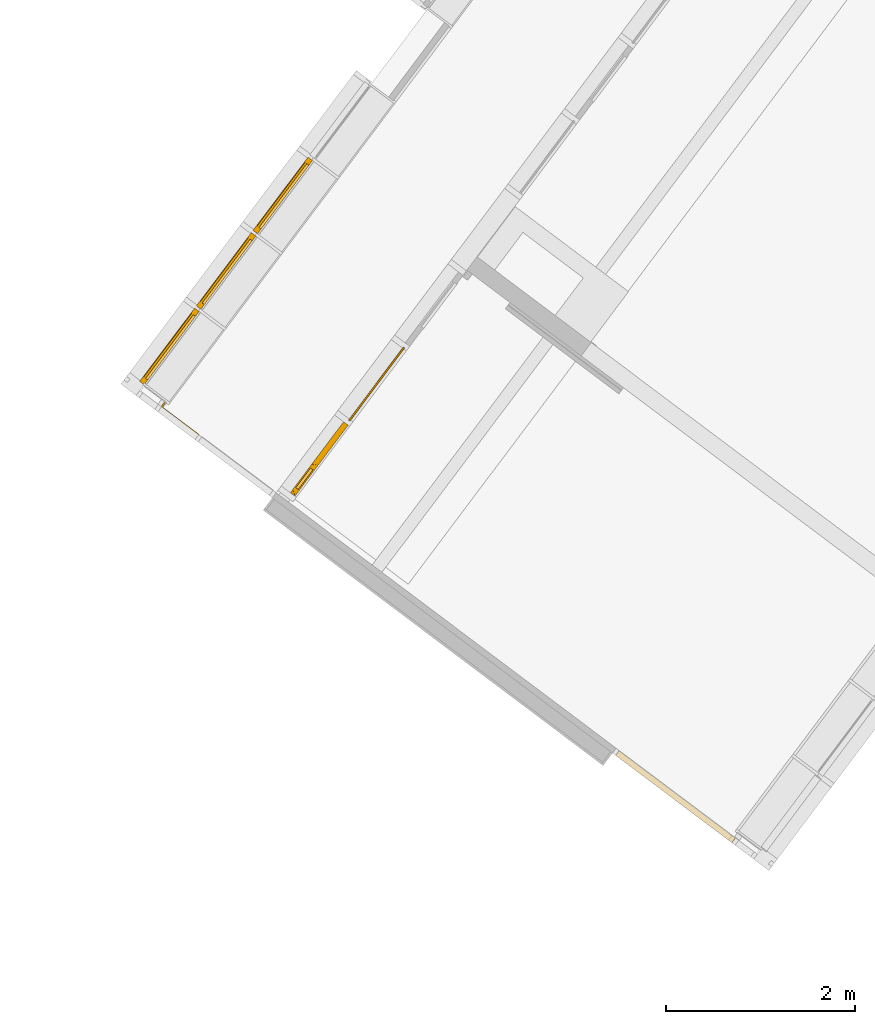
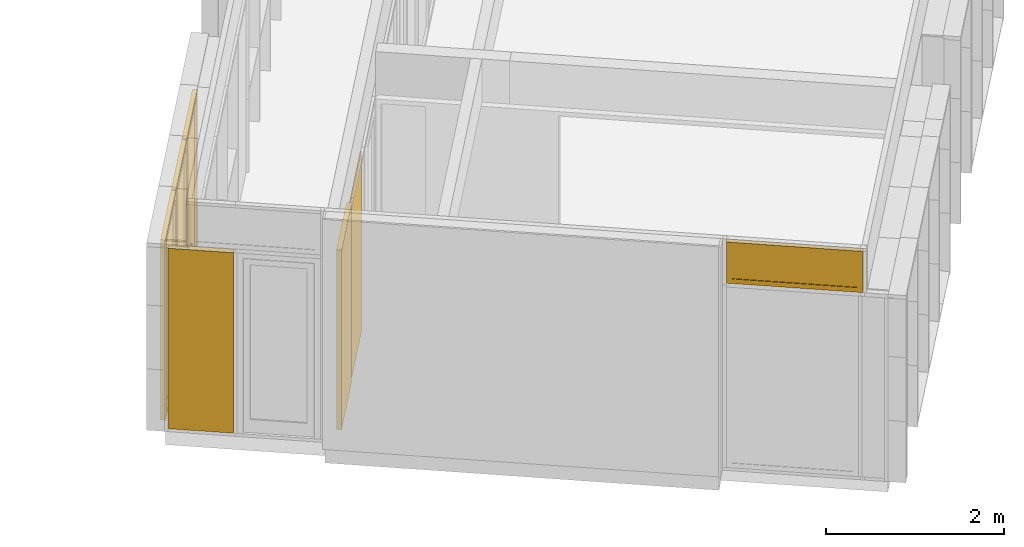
# One storey, part 174 of 243: 6 windows, 1 door, 4 elements without a shape of their own.
"""IFC2X3 building model written with IfcOpenShell, lengths in metres."""

import ifcopenshell
import ifcopenshell.guid

model = None  # the IFC model being written
_history = None  # IfcOwnerHistory: only IFC2X3 demands one
_inside = {}  # id of a spatial element -> (the spatial element, [elements in it])
_under = {}  # id of a project, library or spatial element -> (it, [spatial elements below it])
_declared = {}  # id of a project -> (the project, [libraries it declares])
_typed = {}  # id of a type object -> (the type object, [elements of that type])
_made_of = {}  # id of a material, layer set ... -> (it, [elements and type objects made of it])


def new_model(schema):
    """Start an empty IFC model of exactly this schema.

    Asked for "IFC4X3", IfcOpenShell would pick the latest addendum, in which some entities
    have other attributes; the version numbers below select the first issue.
    IFC2X3 requires an IfcOwnerHistory on every rooted entity: one is made here for all.
    """
    global model, _history
    if schema == "IFC4X3":
        model = ifcopenshell.file(schema_version=(4, 3, 0, 0))
    else:
        model = ifcopenshell.file(schema=schema)
    _inside.clear()
    _under.clear()
    _declared.clear()
    _typed.clear()
    _made_of.clear()
    _history = None
    if model.schema == "IFC2X3":
        org = make("IfcOrganization", Name="unknown")
        user = make(
            "IfcPersonAndOrganization",
            ThePerson=make("IfcPerson", FamilyName="unknown"),
            TheOrganization=org,
        )
        app = make(
            "IfcApplication",
            ApplicationDeveloper=org,
            Version="unknown",
            ApplicationFullName="unknown",
            ApplicationIdentifier="unknown",
        )
        _history = make(
            "IfcOwnerHistory",
            OwningUser=user,
            OwningApplication=app,
            ChangeAction="ADDED",
            CreationDate=0,
        )
    return model


def make(cls, **values):
    """One entity of the class cls with the attributes given. An attribute that is None is left unset."""
    return model.create_entity(
        cls, **{name: value for name, value in values.items() if value is not None}
    )


def entity(cls, *values):
    """Any entity or typed value of the class cls, its attributes in the order of the schema. None: left unset."""
    e = model.create_entity(cls)
    for i, value in enumerate(values):
        if value is not None:
            e[i] = value
    return e


def rooted(cls, **values):
    """An entity with a GlobalId (a new one), such as an element, a storey or a relation."""
    return make(cls, GlobalId=ifcopenshell.guid.new(), OwnerHistory=_history, **values)


def si_unit(unit_type, name, prefix=None):
    """IfcSIUnit, for example si_unit("LENGTHUNIT", "METRE", prefix="MILLI")."""
    return make("IfcSIUnit", UnitType=unit_type, Prefix=prefix, Name=name)


def converted_unit(unit_type, name, factor, base, dimensions=None, offset=None):
    """IfcConversionBasedUnit, such as the inch: factor (a typed value) times the base unit."""
    return make(
        "IfcConversionBasedUnit"
        if offset is None
        else "IfcConversionBasedUnitWithOffset",
        ConversionOffset=offset,
        Dimensions=None
        if dimensions is None
        else entity("IfcDimensionalExponents", *dimensions),
        UnitType=unit_type,
        Name=name,
        ConversionFactor=make(
            "IfcMeasureWithUnit", ValueComponent=factor, UnitComponent=base
        ),
    )


def derived_unit(unit_type, elements):
    """IfcDerivedUnit: a product of units, each with its exponent."""
    return make(
        "IfcDerivedUnit",
        Elements=[
            make("IfcDerivedUnitElement", Unit=unit, Exponent=power)
            for unit, power in elements
        ],
        UnitType=unit_type,
    )


def assignment(units):
    """IfcUnitAssignment: the units of a project."""
    return None if units is None else make("IfcUnitAssignment", Units=units)


def point(xyz):
    """IfcCartesianPoint."""
    return None if xyz is None else make("IfcCartesianPoint", Coordinates=xyz)


def direction(xyz):
    """IfcDirection."""
    return None if xyz is None else make("IfcDirection", DirectionRatios=xyz)


def frame(location, z_axis=None, x_axis=None):
    """IfcAxis2Placement3D, a coordinate frame: its origin and axes. An axis left out is left unset."""
    return make(
        "IfcAxis2Placement3D",
        Location=point(location),
        Axis=direction(z_axis),
        RefDirection=direction(x_axis),
    )


def frame_2d(location, x_axis=None):
    """IfcAxis2Placement2D, a coordinate frame in the plane: its origin and x axis."""
    return make(
        "IfcAxis2Placement2D", Location=point(location), RefDirection=direction(x_axis)
    )


def origin():
    """The frame at (0, 0, 0) with its axes left unset."""
    return frame((0.0, 0.0, 0.0))


def origin_2d_with_axis():
    """The frame at (0, 0) in the plane with the x axis (1, 0) written out."""
    return frame_2d((0.0, 0.0), x_axis=(1.0, 0.0))


def place(relative_to, where):
    """IfcLocalPlacement: puts the frame where relative to a parent placement (None: the world)."""
    return make(
        "IfcLocalPlacement", PlacementRelTo=relative_to, RelativePlacement=where
    )


def context(
    kind, dimensions, precision=None, world=None, true_north=None, identifier=None
):
    """IfcGeometricRepresentationContext, for example the 3D "Model" context."""
    return make(
        "IfcGeometricRepresentationContext",
        ContextIdentifier=identifier,
        ContextType=kind,
        CoordinateSpaceDimension=dimensions,
        Precision=precision,
        WorldCoordinateSystem=world,
        TrueNorth=true_north,
    )


def subcontext(parent, identifier, kind, view, scale=None):
    """IfcGeometricRepresentationSubContext, for example "Body" below "Model"."""
    return make(
        "IfcGeometricRepresentationSubContext",
        ContextIdentifier=identifier,
        ContextType=kind,
        ParentContext=parent,
        TargetScale=scale,
        TargetView=view,
    )


def project(units=None, contexts=None):
    """IfcProject with its units and contexts."""
    return rooted(
        "IfcProject",
        Name="project",
        RepresentationContexts=contexts,
        UnitsInContext=assignment(units),
    )


def spatial(cls, under=None, at=None, **own):
    """A site, building, storey or space (cls), placed at a placement, below another one or the project."""
    s = rooted(cls, ObjectPlacement=at, **own)
    if under is not None:
        _under.setdefault(under.id(), (under, []))[1].append(s)
    return s


def polyline(points):
    """IfcPolyline through the points."""
    return make("IfcPolyline", Points=[point(p) for p in points])


def profile(cls, at=None, kind="AREA", **sizes):
    """A parametric profile (cls). Its sizes go by their IFC names, for example OverallWidth=200.0."""
    return make(cls, ProfileType=kind, Position=at, **sizes)


def rectangle(**sizes):
    """IfcRectangleProfileDef."""
    return profile("IfcRectangleProfileDef", **sizes)


def outline(outer, holes=None, kind="AREA"):
    """IfcArbitraryClosedProfileDef: a profile drawn as a closed curve; with holes, ...WithVoids."""
    if holes is None:
        return make("IfcArbitraryClosedProfileDef", ProfileType=kind, OuterCurve=outer)
    return make(
        "IfcArbitraryProfileDefWithVoids",
        ProfileType=kind,
        OuterCurve=outer,
        InnerCurves=holes,
    )


def extrude(swept, where, along, depth):
    """IfcExtrudedAreaSolid: the profile swept, set in the frame where, extruded along a direction by depth."""
    return make(
        "IfcExtrudedAreaSolid",
        SweptArea=swept,
        Position=where,
        ExtrudedDirection=direction(along),
        Depth=depth,
    )


def faces_of(points, faces, orient=None, outer=None):
    """IfcFace entities. A face is a list of loops; a loop is a list of indices into points, from 0.

    orient and outer hold one flag for each loop. By default every Orientation is true, the
    first loop of a face is its IfcFaceOuterBound and the others are IfcFaceBound.
    """
    made = []
    for i, loops in enumerate(faces):
        bounds = []
        for j, loop in enumerate(loops):
            is_outer = j == 0 if outer is None else outer[i][j]
            bounds.append(
                make(
                    "IfcFaceOuterBound" if is_outer else "IfcFaceBound",
                    Bound=make("IfcPolyLoop", Polygon=[points[k] for k in loop]),
                    Orientation=True if orient is None else orient[i][j],
                )
            )
        made.append(make("IfcFace", Bounds=bounds))
    return made


def faceted_brep(points, faces, orient=None, outer=None, voids=None):
    """IfcFacetedBrep: a solid bounded by flat faces; with voids (closed shells), ...WithVoids."""
    shared = [point(p) for p in points]
    hull = make("IfcClosedShell", CfsFaces=faces_of(shared, faces, orient, outer))
    if voids is None:
        return make("IfcFacetedBrep", Outer=hull)
    return make(
        "IfcFacetedBrepWithVoids",
        Outer=hull,
        Voids=[
            make(cls, CfsFaces=faces_of(shared, fs, o, b)) for cls, fs, o, b in voids
        ],
    )


def shape(context_of_items, identifier, shape_type, items):
    """IfcShapeRepresentation: the items that make up one representation, for example the "Body"."""
    return make(
        "IfcShapeRepresentation",
        ContextOfItems=context_of_items,
        RepresentationIdentifier=identifier,
        RepresentationType=shape_type,
        Items=items,
    )


def source(mapping_origin, context_of_items, identifier, shape_type, items):
    """IfcRepresentationMap: a shape defined once, which mapped items show again and again."""
    return make(
        "IfcRepresentationMap",
        MappingOrigin=mapping_origin,
        MappedRepresentation=shape(context_of_items, identifier, shape_type, items),
    )


def transform(
    local_origin,
    x_axis=None,
    y_axis=None,
    z_axis=None,
    scale=None,
    scale2=None,
    scale3=None,
    uniform=True,
):
    """IfcCartesianTransformationOperator3D, or its non-uniform kind. x_axis, y_axis, z_axis: its Axis1, 2, 3."""
    if uniform:
        return make(
            "IfcCartesianTransformationOperator3D",
            Axis1=direction(x_axis),
            Axis2=direction(y_axis),
            LocalOrigin=point(local_origin),
            Scale=scale,
            Axis3=direction(z_axis),
        )
    return make(
        "IfcCartesianTransformationOperator3DnonUniform",
        Axis1=direction(x_axis),
        Axis2=direction(y_axis),
        LocalOrigin=point(local_origin),
        Scale=scale,
        Axis3=direction(z_axis),
        Scale2=scale2,
        Scale3=scale3,
    )


def mapped(mapping_source, mapping_target):
    """IfcMappedItem: shows the shape of a source again, moved by a transform."""
    return make(
        "IfcMappedItem", MappingSource=mapping_source, MappingTarget=mapping_target
    )


def material(Name=None, Category=None):
    """IfcMaterial."""
    return make("IfcMaterial", Name=Name, Category=Category)


def material_list(materials):
    """IfcMaterialList."""
    return make("IfcMaterialList", Materials=materials)


def made_of(thing, what):
    """Note that an element or type object is made of a material, layer set ...; save() writes the relation."""
    if what is not None:
        _made_of.setdefault(what.id(), (what, []))[1].append(thing)
    return thing


def type_object(cls, material=None, **own):
    """A type object (cls), such as IfcWallType, which elements share."""
    return made_of(rooted(cls, **own), material)


def type_shapes(of_type, sources):
    """Give a type object the sources (RepresentationMaps) that its elements show as mapped items."""
    of_type.RepresentationMaps = sources


def element(
    cls,
    number,
    at=None,
    inside=None,
    cuts=None,
    type_object=None,
    material=None,
    context=None,
    identifier="Body",
    shape_type=None,
    held_by="IfcProductDefinitionShape",
    body=None,
    shapes=None,
    **own,
):
    """One element of the class cls, such as IfcWall. Its Tag is "e" and its number.

    at: its placement. inside: the storey or other place that contains it. cuts: it is an
    opening in that element (IfcRelVoidsElement). A single representation is given by context,
    identifier, shape_type and body (its items); several are given by shapes. held_by: the class
    of the entity that holds the representations. save() writes the other relations.
    """
    e = rooted(cls, Tag="e%d" % number, ObjectPlacement=at, **own)
    if body is not None:
        shapes = [shape(context, identifier, shape_type, body)]
    if shapes is not None:
        e.Representation = make(held_by, Representations=shapes)
    if inside is not None:
        _inside.setdefault(inside.id(), (inside, []))[1].append(e)
    if cuts is not None:
        rooted(
            "IfcRelVoidsElement", RelatingBuildingElement=cuts, RelatedOpeningElement=e
        )
    if type_object is not None:
        _typed.setdefault(type_object.id(), (type_object, []))[1].append(e)
    return made_of(e, material)


def aggregate(whole, parts):
    """IfcRelAggregates: a whole, such as a stair, and the parts it consists of."""
    return rooted("IfcRelAggregates", RelatingObject=whole, RelatedObjects=parts)


def save(model, path):
    """Write the relations noted so far, then the file.

    IfcRelAggregates (storeys below a building ...), IfcRelContainedInSpatialStructure (elements
    in a storey), IfcRelDefinesByType, IfcRelAssociatesMaterial and IfcRelDeclares: one each for
    every whole, place, type object, material and project.
    """
    for whole, parts in _under.values():
        aggregate(whole, parts)
    for where, things in _inside.values():
        rooted(
            "IfcRelContainedInSpatialStructure",
            RelatedElements=things,
            RelatingStructure=where,
        )
    for kind, things in _typed.values():
        rooted("IfcRelDefinesByType", RelatedObjects=things, RelatingType=kind)
    for what, things in _made_of.values():
        rooted("IfcRelAssociatesMaterial", RelatedObjects=things, RelatingMaterial=what)
    for by, libraries in _declared.values():
        rooted("IfcRelDeclares", RelatingContext=by, RelatedDefinitions=libraries)
    model.write(path)


model = new_model("IFC2X3")

# Units and contexts
model_context = context("Model", 3, precision=1e-05, world=origin(), true_north=direction((6.123031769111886e-17, 1.0)))
body_context = subcontext(model_context, "Body", "Model", "MODEL_VIEW")
ifc_project = project(units=[si_unit("LENGTHUNIT", "METRE"), si_unit("AREAUNIT", "SQUARE_METRE"), si_unit("VOLUMEUNIT", "CUBIC_METRE"), converted_unit("PLANEANGLEUNIT", "DEGREE", entity("IfcRatioMeasure", 0.017453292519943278), si_unit("PLANEANGLEUNIT", "RADIAN"), dimensions=[0, 0, 0, 0, 0, 0, 0]), si_unit("MASSUNIT", "GRAM", prefix="KILO"), derived_unit("MASSDENSITYUNIT", [(si_unit("MASSUNIT", "GRAM", prefix="KILO"), 1), (si_unit("LENGTHUNIT", "METRE"), -3)]), derived_unit("IONCONCENTRATIONUNIT", [(si_unit("MASSUNIT", "GRAM", prefix="KILO"), 1), (si_unit("LENGTHUNIT", "METRE"), -3)]), derived_unit("MOMENTOFINERTIAUNIT", [(si_unit("LENGTHUNIT", "METRE"), 4)]), si_unit("TIMEUNIT", "SECOND"), si_unit("FREQUENCYUNIT", "HERTZ"), si_unit("THERMODYNAMICTEMPERATUREUNIT", "DEGREE_CELSIUS"), derived_unit("THERMALTRANSMITTANCEUNIT", [(si_unit("MASSUNIT", "GRAM", prefix="KILO"), 1), (si_unit("THERMODYNAMICTEMPERATUREUNIT", "KELVIN"), -1), (si_unit("TIMEUNIT", "SECOND"), -3)]), derived_unit("THERMALCONDUCTANCEUNIT", [(si_unit("MASSUNIT", "GRAM", prefix="KILO"), 1), (si_unit("THERMODYNAMICTEMPERATUREUNIT", "KELVIN"), -1), (si_unit("TIMEUNIT", "SECOND"), -3), (si_unit("LENGTHUNIT", "METRE"), 1)]), derived_unit("VOLUMETRICFLOWRATEUNIT", [(si_unit("LENGTHUNIT", "METRE"), 3), (si_unit("TIMEUNIT", "SECOND"), -1)]), derived_unit("MASSFLOWRATEUNIT", [(si_unit("MASSUNIT", "GRAM", prefix="KILO"), 1), (si_unit("TIMEUNIT", "SECOND"), -1)]), derived_unit("ROTATIONALFREQUENCYUNIT", [(si_unit("TIMEUNIT", "SECOND"), -1)]), si_unit("ELECTRICCURRENTUNIT", "AMPERE"), si_unit("ELECTRICVOLTAGEUNIT", "VOLT"), si_unit("POWERUNIT", "WATT"), si_unit("FORCEUNIT", "NEWTON", prefix="KILO"), si_unit("ILLUMINANCEUNIT", "LUX"), si_unit("LUMINOUSFLUXUNIT", "LUMEN"), si_unit("LUMINOUSINTENSITYUNIT", "CANDELA"), derived_unit("USERDEFINED", [(si_unit("MASSUNIT", "GRAM", prefix="KILO"), -1), (si_unit("LENGTHUNIT", "METRE"), -2), (si_unit("TIMEUNIT", "SECOND"), 3), (si_unit("LUMINOUSFLUXUNIT", "LUMEN"), 1)]), derived_unit("USERDEFINED", [(si_unit("MASSUNIT", "GRAM", prefix="KILO"), 1), (si_unit("TIMEUNIT", "SECOND"), -3), (si_unit("LENGTHUNIT", "METRE"), 3), (si_unit("ELECTRICCURRENTUNIT", "AMPERE"), -2)]), derived_unit("SOUNDPOWERUNIT", [(si_unit("MASSUNIT", "GRAM", prefix="KILO"), 1), (si_unit("TIMEUNIT", "SECOND"), -3), (si_unit("LENGTHUNIT", "METRE"), 2)]), derived_unit("SOUNDPRESSUREUNIT", [(si_unit("MASSUNIT", "GRAM", prefix="KILO"), 1), (si_unit("LENGTHUNIT", "METRE"), -1), (si_unit("TIMEUNIT", "SECOND"), -2)]), derived_unit("LINEARVELOCITYUNIT", [(si_unit("LENGTHUNIT", "METRE"), 1), (si_unit("TIMEUNIT", "SECOND"), -1)]), si_unit("PRESSUREUNIT", "PASCAL"), derived_unit("USERDEFINED", [(si_unit("MASSUNIT", "GRAM", prefix="KILO"), 1), (si_unit("LENGTHUNIT", "METRE"), -2), (si_unit("TIMEUNIT", "SECOND"), -2)]), derived_unit("LINEARFORCEUNIT", [(si_unit("MASSUNIT", "GRAM", prefix="KILO"), 1), (si_unit("TIMEUNIT", "SECOND"), -2)]), derived_unit("PLANARFORCEUNIT", [(si_unit("MASSUNIT", "GRAM", prefix="KILO"), 1), (si_unit("LENGTHUNIT", "METRE"), -1), (si_unit("TIMEUNIT", "SECOND"), -2)]), derived_unit("SPECIFICHEATCAPACITYUNIT", [(si_unit("THERMODYNAMICTEMPERATUREUNIT", "KELVIN"), -1), (si_unit("LENGTHUNIT", "METRE"), 2), (si_unit("TIMEUNIT", "SECOND"), -2)]), derived_unit("HEATINGVALUEUNIT", [(si_unit("LENGTHUNIT", "METRE"), 2), (si_unit("TIMEUNIT", "SECOND"), -2)]), derived_unit("VAPORPERMEABILITYUNIT", [(si_unit("LENGTHUNIT", "METRE"), -1), (si_unit("TIMEUNIT", "SECOND"), 1)]), derived_unit("DYNAMICVISCOSITYUNIT", [(si_unit("MASSUNIT", "GRAM", prefix="KILO"), 1), (si_unit("TIMEUNIT", "SECOND"), -1), (si_unit("LENGTHUNIT", "METRE"), -1)]), derived_unit("THERMALEXPANSIONCOEFFICIENTUNIT", [(si_unit("THERMODYNAMICTEMPERATUREUNIT", "KELVIN"), -1)]), derived_unit("MODULUSOFELASTICITYUNIT", [(si_unit("MASSUNIT", "GRAM", prefix="KILO"), 1), (si_unit("LENGTHUNIT", "METRE"), -1), (si_unit("TIMEUNIT", "SECOND"), -2)]), derived_unit("ISOTHERMALMOISTURECAPACITYUNIT", [(si_unit("LENGTHUNIT", "METRE"), 3), (si_unit("MASSUNIT", "GRAM", prefix="KILO"), -1)]), derived_unit("MOISTUREDIFFUSIVITYUNIT", [(si_unit("TIMEUNIT", "SECOND"), -1), (si_unit("LENGTHUNIT", "METRE"), 2)])], contexts=[model_context])

# Site, building, storey
site_placement = place(None, frame((0.0, 0.0, 235.0), z_axis=(0.0, 0.0, 1.0), x_axis=(-0.7996477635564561, 0.6004693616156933, 0.0)))
site = spatial("IfcSite", under=ifc_project, at=site_placement, Name="Default", CompositionType="ELEMENT")
building_placement = place(site_placement, origin())
building = spatial("IfcBuilding", under=site, at=building_placement, CompositionType="ELEMENT")
storey_placement = place(building_placement, origin())
storey = spatial("IfcBuildingStorey", under=building, at=storey_placement, Name="P0- Escola", CompositionType="ELEMENT", Elevation=0.0)

# Curtain wall, windows
curtain_wall_type_1 = type_object("IfcCurtainWallType", Name="Muro cortina:MC- INT- a1", PredefinedType="NOTDEFINED")
curtain_wall_1_placement = place(storey_placement, origin())
curtain_wall_1 = element("IfcCurtainWall", 1, at=curtain_wall_1_placement, inside=storey, type_object=curtain_wall_type_1, Name="Muro cortina:MC- INT- a1", ObjectType="Muro cortina:MC- INT- a1")
ifc_material_1 = material(Name="_Fusta massisa- T1-  REV- PAV")
window_style_1 = type_object("IfcWindowStyle", Name="MC- Fusta- Finestra ventilacio interior:MC- Fusta- Finestra ventilacio interior", ConstructionType="NOTDEFINED", OperationType="NOTDEFINED", ParameterTakesPrecedence=False, Sizeable=False, material=ifc_material_1)
shared_shape_1 = source(origin(), body_context, "Body", "Brep", [
    faceted_brep([(-0.39299910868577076, 0.025000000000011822, 2.382999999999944), (-0.3929991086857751, 0.025000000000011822, 1.0449999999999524), (-0.13199910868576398, 0.0250000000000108, 1.0449999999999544), (-0.13199910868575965, 0.02500000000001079, 2.382999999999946), (-0.13199910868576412, -0.004999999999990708, 1.0449999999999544), (-0.1319991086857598, -0.004999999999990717, 2.382999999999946), (-0.3929991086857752, -0.004999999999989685, 1.0449999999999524), (-0.3929991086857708, -0.004999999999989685, 2.382999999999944), (-0.08699910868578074, 0.04000000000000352, 2.427999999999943), (-0.08699910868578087, 0.01000000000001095, 2.428000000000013), (-0.08699910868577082, 0.010000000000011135, 1.0), (-0.08699910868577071, 0.04000000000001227, 1.0), (-0.43799910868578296, 0.010000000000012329, 1.0), (-0.43799910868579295, 0.010000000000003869, 2.427999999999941), (-0.4379991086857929, 0.0400000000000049, 2.427999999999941), (-0.4379991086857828, 0.04000000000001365, 1.0), (-0.07199910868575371, 0.009999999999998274, 0.9850000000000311), (-0.45299910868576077, 0.009999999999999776, 0.9850000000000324), (-0.45299910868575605, 0.010000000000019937, 2.4430000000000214), (-0.07199910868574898, 0.010000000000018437, 2.44300000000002), (-0.07199910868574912, -0.019999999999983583, 2.443000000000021), (-0.45299910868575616, -0.019999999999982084, 2.443000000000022), (-0.45299910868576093, -0.02000000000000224, 0.985000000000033), (-0.07199910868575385, -0.020000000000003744, 0.9850000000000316)], [[[0, 1, 2, 3]], [[3, 2, 4, 5]], [[5, 4, 6, 7]], [[1, 0, 7, 6]], [[8, 9, 10, 11]], [[12, 13, 14, 15]], [[13, 9, 8, 14]], [[8, 11, 15, 14]], [[0, 3, 5, 7]], [[2, 1, 6, 4]], [[11, 10, 12, 15]], [[9, 13, 12, 10], [16, 17, 18, 19]], [[20, 21, 22, 23]], [[20, 19, 18, 21]], [[16, 19, 20, 23]], [[18, 17, 22, 21]], [[16, 23, 22, 17]]], outer=[[True], [True], [True], [True], [True], [True], [True], [True], [True], [True], [True], [False, True], [True], [True], [True], [True], [True]]),
    faceted_brep([(0.4649991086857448, -0.019999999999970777, 2.4549999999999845), (-0.4649991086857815, -0.019999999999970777, 2.4549999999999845), (-0.46499910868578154, -0.020000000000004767, 0.004999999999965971), (0.46499910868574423, -0.020000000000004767, 0.004999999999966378), (-0.4549991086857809, -0.019999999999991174, 0.9850000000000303), (-0.4549991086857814, -0.01999999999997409, 2.444999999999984), (-0.06999910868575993, -0.019999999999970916, 2.444999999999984), (-0.06999910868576, -0.019999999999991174, 0.9850000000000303), (-0.46499910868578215, -0.01599999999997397, 2.454999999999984), (-0.46499910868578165, -0.01600000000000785, 0.004999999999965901), (0.4649991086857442, -0.01600000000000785, 0.004999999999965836), (0.4649991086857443, -0.01599999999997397, 2.454999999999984), (-0.4699991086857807, -0.015999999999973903, 2.459999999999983), (-0.4699991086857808, -0.016000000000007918, 0.0), (0.4699991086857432, -0.016000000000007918, 0.0), (0.46999910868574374, -0.015999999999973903, 2.459999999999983), (0.4649991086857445, 0.03600000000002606, 2.454999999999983), (-0.4649991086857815, 0.03600000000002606, 2.454999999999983), (-0.46499910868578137, 0.03599999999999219, 0.004999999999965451), (0.46499910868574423, 0.03599999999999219, 0.004999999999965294), (0.4699991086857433, 0.036000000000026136, 2.459999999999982), (0.4699991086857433, 0.03599999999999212, 0.0), (-0.4699991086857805, 0.03599999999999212, 0.0), (-0.46999910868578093, 0.036000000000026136, 2.4599999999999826), (-0.46499910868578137, 0.03999999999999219, 0.004999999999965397), (0.4649991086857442, 0.03999999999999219, 0.004999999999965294), (-0.4649991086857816, 0.040000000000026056, 2.4550000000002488), (0.464999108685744, 0.040000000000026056, 2.4549999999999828), (-0.08499910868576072, 0.04000000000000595, 1.0), (-0.08499910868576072, 0.04000000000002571, 2.4299999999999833), (-0.4399991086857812, 0.040000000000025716, 2.4299999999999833), (-0.43999910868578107, 0.04000000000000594, 1.0), (-0.43999910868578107, 0.01000000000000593, 1.0), (-0.43999910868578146, 0.010000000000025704, 2.4299999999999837), (-0.08499910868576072, 0.010000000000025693, 2.4299999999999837), (-0.08499910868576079, 0.010000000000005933, 1.0), (-0.4549991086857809, 0.010000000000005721, 0.9850000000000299), (-0.08499910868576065, 0.010000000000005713, 0.9850000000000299), (-0.06999910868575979, 0.010000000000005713, 0.9850000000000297), (-0.06999910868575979, 0.0100000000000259, 2.4449999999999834), (-0.08499910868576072, 0.0100000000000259, 2.4449999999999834), (-0.4549991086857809, 0.010000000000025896, 2.4449999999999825)], [[[0, 1, 2, 3], [4, 5, 6, 7]], [[8, 9, 2, 1]], [[3, 2, 9, 10]], [[10, 9, 8, 11], [12, 13, 14, 15]], [[16, 17, 18, 19], [20, 21, 22, 23]], [[19, 18, 24, 25]], [[25, 24, 26, 27], [28, 29, 30, 31]], [[32, 33, 34, 35], [36, 37, 38, 39, 40, 41]], [[28, 31, 32, 35]], [[35, 34, 29, 28]], [[33, 32, 31, 30]], [[5, 4, 36, 41]], [[7, 6, 39, 38]], [[38, 37, 36, 4, 7]], [[0, 3, 10, 11]], [[16, 19, 25, 27]], [[15, 14, 21, 20]], [[14, 13, 22, 21]], [[23, 22, 13, 12]], [[1, 0, 11, 8]], [[12, 15, 20, 23]], [[41, 40, 39, 6, 5]], [[30, 29, 34, 33]], [[17, 16, 27, 26]], [[26, 24, 18, 17]]], outer=[[True, False], [True], [True], [False, True], [False, True], [True], [True, False], [False, True], [True], [True], [True], [True], [True], [True], [True], [True], [True], [True], [True], [True], [True], [True], [True], [True], [True]]),
])
type_shapes(window_style_1, [shared_shape_1])
window_1_placement = place(curtain_wall_1_placement, frame((60.020147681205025, -20.91519086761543, 0.059999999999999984), z_axis=(0.0, 0.0, 1.0), x_axis=(0.0, -1.0, 0.0)))
window_1 = element("IfcWindow", 2, at=window_1_placement, type_object=window_style_1, material=ifc_material_1, Name="MC- Fusta- Finestra ventilacio interior:MC- Fusta- Finestra ventilacio interior", ObjectType="MC- Fusta- Finestra ventilacio interior:MC- Fusta- Finestra ventilacio interior", OverallHeight=2.4600000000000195, OverallWidth=0.9399982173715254, context=body_context, shape_type="MappedRepresentation", body=[
    mapped(shared_shape_1, transform((0.0, 0.0, 0.0), scale=1.0)),
])
ifc_material_2 = material(Name="_Vidre")
window_style_2 = type_object("IfcWindowStyle", Name="MC- Fusta- vidre fix:MC- Fusta- vidre fix", ConstructionType="NOTDEFINED", OperationType="NOTDEFINED", ParameterTakesPrecedence=False, Sizeable=False, material=ifc_material_2)
shared_shape_2 = source(origin(), body_context, "Body", "SweptSolid", [
    extrude(rectangle(XDim=0.9699999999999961, YDim=0.015999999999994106, at=origin_2d_with_axis()), frame((0.0, 0.0, 0.0), z_axis=(0.0, 0.0, 1.0), x_axis=(-1.0, 0.0, 0.0)), (0.0, 0.0, 1.0), 2.475),
])
type_shapes(window_style_2, [shared_shape_2])
window_2_placement = place(curtain_wall_1_placement, frame((60.020147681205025, -21.915189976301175, 0.045000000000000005), z_axis=(0.0, 0.0, 1.0), x_axis=(0.0, -1.0, 0.0)))
window_2 = element("IfcWindow", 3, at=window_2_placement, type_object=window_style_2, material=ifc_material_2, Name="MC- Fusta- vidre fix:MC- Fusta- vidre fix", ObjectType="MC- Fusta- vidre fix:MC- Fusta- vidre fix", OverallHeight=2.475, OverallWidth=0.9699999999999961, context=body_context, shape_type="MappedRepresentation", body=[
    mapped(shared_shape_2, transform((0.0, 0.0, 0.0), scale=1.0)),
])
aggregate(curtain_wall_1, [window_1, window_2])

# Curtain wall, door
curtain_wall_type_2 = type_object("IfcCurtainWallType", Name="Muro cortina:MC- EXT- AL1- Fa porxo", PredefinedType="NOTDEFINED")
curtain_wall_2_placement = place(storey_placement, origin())
curtain_wall_2 = element("IfcCurtainWall", 4, at=curtain_wall_2_placement, inside=storey, type_object=curtain_wall_type_2, Name="Muro cortina:MC- EXT- AL1- Fa porxo", ObjectType="Muro cortina:MC- EXT- AL1- Fa porxo")
ifc_material_3 = material(Name="_Fusta massisa- T1")
ifc_material_4 = material(Name="_Aillament")
ifc_material_5 = material(Name="_Alumini- T1- Perfil")
ifc_material_list_1 = material_list([ifc_material_3, ifc_material_4, ifc_material_5])
door_style = type_object("IfcDoorStyle", Name="MC- Alu- panell especific:MC- Alu- panell especific", ConstructionType="NOTDEFINED", OperationType="NOTDEFINED", ParameterTakesPrecedence=False, Sizeable=False, material=ifc_material_list_1)
shared_shape_3 = source(origin(), body_context, "Body", "SweptSolid", [
    extrude(outline(polyline([(-0.3273333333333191, -0.009999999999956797), (-0.3273333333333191, -0.030000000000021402), (0.17116666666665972, -0.030000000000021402), (0.17116666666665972, 0.03999999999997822), (0.15616666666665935, 0.03999999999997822), (0.15616666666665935, -0.009999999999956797), (-0.3273333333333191, -0.009999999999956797)])), frame((-0.04191666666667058, -0.08000000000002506, 0.0), z_axis=(0.0, 0.0, -1.0), x_axis=(1.0, 0.0, 0.0)), (0.0, 0.0, -1.0), 2.4712499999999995),
    extrude(rectangle(XDim=0.04400000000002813, YDim=0.7384999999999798, at=origin_2d_with_axis()), frame((0.0, -0.027999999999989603, 0.0), z_axis=(0.0, 0.0, 1.0), x_axis=(0.0, 1.0, 0.0)), (0.0, 0.0, 1.0), 2.4712499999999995),
    extrude(rectangle(XDim=0.73849999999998, YDim=0.005999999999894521, at=origin_2d_with_axis()), frame((0.0, -0.003000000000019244, 0.0), z_axis=(0.0, 0.0, 1.0), x_axis=(-1.0, 0.0, 0.0)), (0.0, 0.0, 1.0), 2.4712499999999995),
])
type_shapes(door_style, [shared_shape_3])
door_placement = place(curtain_wall_2_placement, frame((61.57489768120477, -20.288941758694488, 0.02099999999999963)))
door = element("IfcDoor", 5, at=door_placement, type_object=door_style, material=ifc_material_list_1, Name="MC- Alu- panell especific:MC- Alu- panell especific", ObjectType="MC- Alu- panell especific:MC- Alu- panell especific", OverallHeight=2.4712499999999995, OverallWidth=0.7384999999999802, context=body_context, shape_type="MappedRepresentation", body=[
    mapped(shared_shape_3, transform((0.0, 0.0, 0.0), scale=1.0)),
])
aggregate(curtain_wall_2, [door])

# Curtain wall, windows
curtain_wall_type_3 = type_object("IfcCurtainWallType", Name="Muro cortina:MC- EXT- MC5", PredefinedType="NOTDEFINED")
curtain_wall_3_placement = place(storey_placement, origin())
curtain_wall_3 = element("IfcCurtainWall", 6, at=curtain_wall_3_placement, inside=storey, type_object=curtain_wall_type_3, Name="Muro cortina:MC- EXT- MC5", ObjectType="Muro cortina:MC- EXT- MC5")
ifc_material_list_2 = material_list([ifc_material_2, ifc_material_5])
window_style_3 = type_object("IfcWindowStyle", Name="MC- Alu- Conjunt vidre fix- 62x60 cm:MC- Alu- Conjunt vidre fix- 62x60 cm", ConstructionType="NOTDEFINED", OperationType="NOTDEFINED", ParameterTakesPrecedence=False, Sizeable=False, material=ifc_material_list_2)
shared_shape_4 = source(origin(), body_context, "Body", "Brep", [
    faceted_brep([(-0.43619328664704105, -0.007600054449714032, 0.048806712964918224), (0.43619328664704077, -0.007600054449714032, 0.048806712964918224), (0.43619328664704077, -0.03160022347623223, 0.048806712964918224), (-0.43619328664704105, -0.03160022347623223, 0.048806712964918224), (-0.43619328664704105, -0.007600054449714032, 2.422449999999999), (0.43619328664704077, -0.007600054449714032, 2.422449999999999), (0.43619328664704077, -0.03160022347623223, 2.422449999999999), (-0.43619328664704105, -0.03160022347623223, 2.422449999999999)], [[[0, 1, 2, 3]], [[4, 5, 1, 0]], [[5, 6, 2, 1]], [[6, 7, 3, 2]], [[7, 4, 0, 3]], [[4, 7, 6, 5]]]),
    faceted_brep([(-0.4849999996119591, -0.05999999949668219, 2.471449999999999), (-0.4849999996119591, 0.0, 2.471449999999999), (-0.4849999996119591, 0.0, 0.0), (-0.48499999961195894, -0.05999999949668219, 0.0), (-0.4221931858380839, 0.0, 2.408643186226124), (-0.4221931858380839, 0.0, 0.06280681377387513), (0.42219318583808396, 0.0, 0.06280681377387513), (0.422193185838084, 0.0, 2.408643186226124), (0.4849999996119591, 0.0, 2.471449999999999), (0.4849999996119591, 0.0, 0.0), (0.48499999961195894, -0.05999999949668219, 0.0), (0.4849999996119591, -0.05999999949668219, 2.471449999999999), (0.42219603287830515, -0.05999999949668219, 2.408646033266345), (0.42219603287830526, -0.05999999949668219, 0.06280396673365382), (-0.42219603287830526, -0.05999999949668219, 0.06280396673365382), (-0.42219603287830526, -0.05999999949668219, 2.4086460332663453), (-0.42219603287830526, -0.03160022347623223, 2.4086460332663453), (-0.4221960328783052, -0.03160022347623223, 0.06280396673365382), (0.4221960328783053, -0.03160022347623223, 0.06280396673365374), (0.42219603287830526, -0.03160022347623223, 2.4086460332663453), (0.43619328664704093, -0.03160022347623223, 2.422643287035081), (0.43619328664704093, -0.03160022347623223, 0.048806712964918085), (-0.4361932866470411, -0.03160022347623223, 0.04880671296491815), (-0.43619328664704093, -0.03160022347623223, 2.422643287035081), (-0.43619328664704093, -0.007600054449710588, 2.422643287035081), (-0.4361932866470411, -0.007600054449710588, 0.04880671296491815), (0.43619328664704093, -0.007600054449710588, 0.048806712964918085), (0.43619328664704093, -0.007600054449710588, 2.422643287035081), (0.42219318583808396, -0.007600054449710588, 2.408643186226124), (0.42219318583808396, -0.007600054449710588, 0.06280681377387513), (-0.42219318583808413, -0.007600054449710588, 0.06280681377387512), (-0.4221931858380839, -0.007600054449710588, 2.408643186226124)], [[[0, 1, 2, 3]], [[4, 5, 6, 7], [8, 9, 2, 1]], [[3, 2, 9, 10]], [[0, 3, 10, 11], [12, 13, 14, 15]], [[16, 15, 14, 17]], [[17, 14, 13, 18]], [[16, 17, 18, 19], [20, 21, 22, 23]], [[24, 23, 22, 25]], [[25, 22, 21, 26]], [[24, 25, 26, 27], [28, 29, 30, 31]], [[4, 31, 30, 5]], [[5, 30, 29, 6]], [[10, 9, 8, 11]], [[18, 13, 12, 19]], [[26, 21, 20, 27]], [[6, 29, 28, 7]], [[11, 8, 1, 0]], [[19, 12, 15, 16]], [[27, 20, 23, 24]], [[7, 28, 31, 4]]], outer=[[True], [False, True], [True], [True, False], [True], [True], [False, True], [True], [True], [True, False], [True], [True], [True], [True], [True], [True], [True], [True], [True], [True]]),
])
type_shapes(window_style_3, [shared_shape_4])
window_3_placement = place(curtain_wall_3_placement, frame((62.045147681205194, -20.915191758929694, 0.03229999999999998), z_axis=(0.0, 0.0, 1.0), x_axis=(0.0, -1.0, 0.0)))
window_3 = element("IfcWindow", 7, at=window_3_placement, type_object=window_style_3, material=ifc_material_list_2, Name="MC- Alu- Conjunt vidre fix- 62x60 cm:MC- Alu- Conjunt vidre fix- 62x60 cm", ObjectType="MC- Alu- Conjunt vidre fix- 62x60 cm:MC- Alu- Conjunt vidre fix- 62x60 cm", OverallHeight=2.471449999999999, OverallWidth=0.9699999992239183, context=body_context, shape_type="MappedRepresentation", body=[
    mapped(shared_shape_4, transform((0.0, 0.0, 0.0), scale=1.0)),
])
window_4_placement = place(curtain_wall_3_placement, frame((62.045147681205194, -21.915191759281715, 0.03229999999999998), z_axis=(0.0, 0.0, 1.0), x_axis=(0.0, -1.0, 0.0)))
window_4 = element("IfcWindow", 8, at=window_4_placement, type_object=window_style_3, material=ifc_material_list_2, Name="MC- Alu- Conjunt vidre fix- 62x60 cm:MC- Alu- Conjunt vidre fix- 62x60 cm", ObjectType="MC- Alu- Conjunt vidre fix- 62x60 cm:MC- Alu- Conjunt vidre fix- 62x60 cm", OverallHeight=2.471449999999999, OverallWidth=0.9699999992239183, context=body_context, shape_type="MappedRepresentation", body=[
    mapped(shared_shape_4, transform((0.0, 0.0, 0.0), scale=1.0)),
])
window_5_placement = place(curtain_wall_3_placement, frame((62.045147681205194, -22.915191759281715, 0.03229999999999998), z_axis=(0.0, 0.0, 1.0), x_axis=(0.0, -1.0, 0.0)))
window_5 = element("IfcWindow", 9, at=window_5_placement, type_object=window_style_3, material=ifc_material_list_2, Name="MC- Alu- Conjunt vidre fix- 62x60 cm:MC- Alu- Conjunt vidre fix- 62x60 cm", ObjectType="MC- Alu- Conjunt vidre fix- 62x60 cm:MC- Alu- Conjunt vidre fix- 62x60 cm", OverallHeight=2.471449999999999, OverallWidth=0.9699999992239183, context=body_context, shape_type="MappedRepresentation", body=[
    mapped(shared_shape_4, transform((0.0, 0.0, 0.0), scale=1.0)),
])
aggregate(curtain_wall_3, [window_3, window_4, window_5])

# Curtain wall, window
curtain_wall_4_placement = place(storey_placement, origin())
curtain_wall_4 = element("IfcCurtainWall", 10, at=curtain_wall_4_placement, inside=storey, type_object=curtain_wall_type_2, Name="Muro cortina:MC- EXT- AL1- Fa porxo", ObjectType="Muro cortina:MC- EXT- AL1- Fa porxo")
window_style_4 = type_object("IfcWindowStyle", Name="MC- Alu- Conjunt vidre fix- 62x60 cm:MC- Alu- Conjunt vidre fix- 62x60 cm", ConstructionType="NOTDEFINED", OperationType="NOTDEFINED", ParameterTakesPrecedence=False, Sizeable=False, material=ifc_material_list_2)
shared_shape_5 = source(origin(), body_context, "Body", "Brep", [
    faceted_brep([(-0.7221079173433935, -0.007600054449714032, 0.048806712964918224), (0.7221079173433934, -0.007600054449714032, 0.048806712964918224), (0.7221079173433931, -0.03160022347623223, 0.048806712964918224), (-0.7221079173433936, -0.03160022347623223, 0.048806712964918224), (-0.7221079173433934, -0.007600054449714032, 0.5147500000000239), (0.7221079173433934, -0.007600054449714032, 0.5147500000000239), (0.7221079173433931, -0.03160022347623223, 0.5147500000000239), (-0.7221079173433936, -0.03160022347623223, 0.5147500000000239)], [[[0, 1, 2, 3]], [[4, 5, 1, 0]], [[5, 6, 2, 1]], [[6, 7, 3, 2]], [[7, 4, 0, 3]], [[4, 7, 6, 5]]]),
    faceted_brep([(-0.7709146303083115, -0.05999999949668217, 0.563750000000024), (-0.7709146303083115, 0.0, 0.563750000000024), (-0.7709146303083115, 0.0, 0.0), (-0.7709146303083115, -0.05999999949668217, 0.0), (-0.7081078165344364, 0.0, 0.5009431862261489), (-0.7081078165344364, 0.0, 0.06280681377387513), (0.7081078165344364, 0.0, 0.06280681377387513), (0.7081078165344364, 0.0, 0.5009431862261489), (0.7709146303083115, 0.0, 0.563750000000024), (0.7709146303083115, 0.0, 0.0), (0.7709146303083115, -0.05999999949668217, 0.0), (0.7709146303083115, -0.05999999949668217, 0.563750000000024), (0.7081106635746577, -0.05999999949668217, 0.5009460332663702), (0.7081106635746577, -0.05999999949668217, 0.06280396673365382), (-0.7081106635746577, -0.05999999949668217, 0.06280396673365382), (-0.7081106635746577, -0.05999999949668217, 0.5009460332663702), (-0.7081106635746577, -0.03160022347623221, 0.5009460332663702), (-0.7081106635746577, -0.03160022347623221, 0.06280396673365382), (0.7081106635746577, -0.03160022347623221, 0.06280396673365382), (0.7081106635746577, -0.03160022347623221, 0.5009460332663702), (0.7221079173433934, -0.03160022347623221, 0.5149432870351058), (0.7221079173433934, -0.03160022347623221, 0.048806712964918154), (-0.7221079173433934, -0.03160022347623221, 0.04880671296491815), (-0.7221079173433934, -0.03160022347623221, 0.5149432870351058), (-0.7221079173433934, -0.007600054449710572, 0.5149432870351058), (-0.7221079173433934, -0.007600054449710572, 0.04880671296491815), (0.7221079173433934, -0.007600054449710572, 0.048806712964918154), (0.7221079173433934, -0.007600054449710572, 0.5149432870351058), (0.7081078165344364, -0.007600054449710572, 0.5009431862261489), (0.7081078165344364, -0.007600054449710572, 0.06280681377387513), (-0.7081078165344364, -0.007600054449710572, 0.06280681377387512), (-0.7081078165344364, -0.007600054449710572, 0.5009431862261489)], [[[0, 1, 2, 3]], [[4, 5, 6, 7], [8, 9, 2, 1]], [[3, 2, 9, 10]], [[0, 3, 10, 11], [12, 13, 14, 15]], [[16, 15, 14, 17]], [[17, 14, 13, 18]], [[16, 17, 18, 19], [20, 21, 22, 23]], [[24, 23, 22, 25]], [[25, 22, 21, 26]], [[24, 25, 26, 27], [28, 29, 30, 31]], [[4, 31, 30, 5]], [[5, 30, 29, 6]], [[10, 9, 8, 11]], [[18, 13, 12, 19]], [[26, 21, 20, 27]], [[6, 29, 28, 7]], [[11, 8, 1, 0]], [[19, 12, 15, 16]], [[27, 20, 23, 24]], [[7, 28, 31, 4]]], outer=[[True], [False, True], [True], [True, False], [True], [True], [False, True], [True], [True], [True, False], [True], [True], [True], [True], [True], [True], [True], [True], [True], [True]]),
])
type_shapes(window_style_4, [shared_shape_5])
window_6_placement = place(curtain_wall_4_placement, frame((54.86322897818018, -20.288941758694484, 2.54525)))
window_6 = element("IfcWindow", 11, at=window_6_placement, type_object=window_style_4, material=ifc_material_list_2, Name="MC- Alu- Conjunt vidre fix- 62x60 cm:MC- Alu- Conjunt vidre fix- 62x60 cm", ObjectType="MC- Alu- Conjunt vidre fix- 62x60 cm:MC- Alu- Conjunt vidre fix- 62x60 cm", OverallHeight=0.563750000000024, OverallWidth=1.541829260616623, context=body_context, shape_type="MappedRepresentation", body=[
    mapped(shared_shape_5, transform((0.0, 0.0, 0.0), scale=1.0)),
])
aggregate(curtain_wall_4, [window_6])

save(model, "model.ifc")
